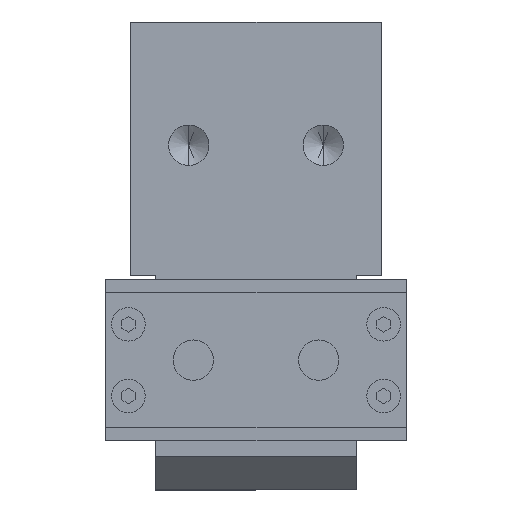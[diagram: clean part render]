
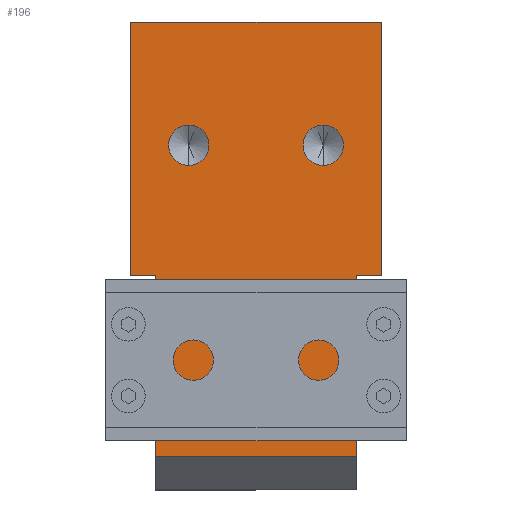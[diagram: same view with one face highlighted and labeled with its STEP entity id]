
A CAD part, left-side view. The second image highlights one B-rep face of the part: STEP entity #196.
In plain terms, the highlighted planar face has unit normal (-1, 0, 0).
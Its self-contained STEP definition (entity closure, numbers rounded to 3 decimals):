
#188 = VERTEX_POINT ( 'NONE', #1426 ) ;
#195 = EDGE_LOOP ( 'NONE', ( #234, #210 ) ) ;
#196 = ADVANCED_FACE ( 'NONE', ( #1486, #1485, #1483 ), #1479, .F. ) ;
#203 = EDGE_CURVE ( 'NONE', #230, #232, #1484, .T. ) ;
#204 = EDGE_CURVE ( 'NONE', #188, #623, #1465, .T. ) ;
#206 = ORIENTED_EDGE ( 'NONE', *, *, #211, .F. ) ;
#207 = EDGE_LOOP ( 'NONE', ( #206, #208 ) ) ;
#208 = ORIENTED_EDGE ( 'NONE', *, *, #335, .F. ) ;
#209 = ORIENTED_EDGE ( 'NONE', *, *, #203, .T. ) ;
#210 = ORIENTED_EDGE ( 'NONE', *, *, #267, .F. ) ;
#211 = EDGE_CURVE ( 'NONE', #277, #301, #1472, .T. ) ;
#212 = EDGE_CURVE ( 'NONE', #230, #604, #1481, .T. ) ;
#214 = ORIENTED_EDGE ( 'NONE', *, *, #204, .T. ) ;
#228 = EDGE_LOOP ( 'NONE', ( #231, #209, #237, #245, #236, #238, #214, #5660 ) ) ;
#229 = EDGE_CURVE ( 'NONE', #265, #260, #1503, .T. ) ;
#230 = VERTEX_POINT ( 'NONE', #1495 ) ;
#231 = ORIENTED_EDGE ( 'NONE', *, *, #212, .F. ) ;
#232 = VERTEX_POINT ( 'NONE', #1513 ) ;
#234 = ORIENTED_EDGE ( 'NONE', *, *, #229, .F. ) ;
#236 = ORIENTED_EDGE ( 'NONE', *, *, #240, .F. ) ;
#237 = ORIENTED_EDGE ( 'NONE', *, *, #250, .T. ) ;
#238 = ORIENTED_EDGE ( 'NONE', *, *, #239, .F. ) ;
#239 = EDGE_CURVE ( 'NONE', #188, #244, #1547, .T. ) ;
#240 = EDGE_CURVE ( 'NONE', #244, #755, #1540, .T. ) ;
#244 = VERTEX_POINT ( 'NONE', #1541 ) ;
#245 = ORIENTED_EDGE ( 'NONE', *, *, #766, .T. ) ;
#250 = EDGE_CURVE ( 'NONE', #232, #739, #1535, .T. ) ;
#260 = VERTEX_POINT ( 'NONE', #1530 ) ;
#265 = VERTEX_POINT ( 'NONE', #1578 ) ;
#267 = EDGE_CURVE ( 'NONE', #260, #265, #1584, .T. ) ;
#277 = VERTEX_POINT ( 'NONE', #1606 ) ;
#301 = VERTEX_POINT ( 'NONE', #1635 ) ;
#335 = EDGE_CURVE ( 'NONE', #301, #277, #1704, .T. ) ;
#604 = VERTEX_POINT ( 'NONE', #2198 ) ;
#623 = VERTEX_POINT ( 'NONE', #2250 ) ;
#627 = EDGE_CURVE ( 'NONE', #623, #604, #2241, .T. ) ;
#739 = VERTEX_POINT ( 'NONE', #2442 ) ;
#755 = VERTEX_POINT ( 'NONE', #2473 ) ;
#766 = EDGE_CURVE ( 'NONE', #739, #755, #2508, .T. ) ;
#1426 = CARTESIAN_POINT ( 'NONE',  ( 0., 0., 56.5 ) ) ;
#1458 = DIRECTION ( 'NONE',  ( 0., 0., 1. ) ) ;
#1459 = DIRECTION ( 'NONE',  ( -1., 0., 0. ) ) ;
#1460 = CARTESIAN_POINT ( 'NONE',  ( 0., -13., 29. ) ) ;
#1461 = AXIS2_PLACEMENT_3D ( 'NONE', #1460, #1459, #1458 ) ;
#1462 = DIRECTION ( 'NONE',  ( 0., 0., -1. ) ) ;
#1463 = VECTOR ( 'NONE', #1462, 1000. ) ;
#1464 = CARTESIAN_POINT ( 'NONE',  ( 0., 0., 56.5 ) ) ;
#1465 = LINE ( 'NONE', #1464, #1463 ) ;
#1468 = VECTOR ( 'NONE', #1473, 1000. ) ;
#1472 = CIRCLE ( 'NONE', #1461, 4.5 ) ;
#1473 = DIRECTION ( 'NONE',  ( 0., -1., 0. ) ) ;
#1474 = CARTESIAN_POINT ( 'NONE',  ( 0., -50.5, -40.5 ) ) ;
#1475 = DIRECTION ( 'NONE',  ( 0., 1., 0. ) ) ;
#1476 = DIRECTION ( 'NONE',  ( 1., 0., 0. ) ) ;
#1477 = CARTESIAN_POINT ( 'NONE',  ( 0., -104.097, 56.5 ) ) ;
#1478 = AXIS2_PLACEMENT_3D ( 'NONE', #1477, #1476, #1475 ) ;
#1479 = PLANE ( 'NONE',  #1478 ) ;
#1481 = LINE ( 'NONE', #1518, #1517 ) ;
#1483 = FACE_OUTER_BOUND ( 'NONE', #228, .T. ) ;
#1484 = LINE ( 'NONE', #1474, #1468 ) ;
#1485 = FACE_BOUND ( 'NONE', #207, .T. ) ;
#1486 = FACE_BOUND ( 'NONE', #195, .T. ) ;
#1489 = CARTESIAN_POINT ( 'NONE',  ( 0., -104.097, 56.5 ) ) ;
#1490 = AXIS2_PLACEMENT_3D ( 'NONE', #1550, #1549, #1548 ) ;
#1495 = CARTESIAN_POINT ( 'NONE',  ( 0., -5.5, -40.5 ) ) ;
#1503 = CIRCLE ( 'NONE', #1490, 4.5 ) ;
#1513 = CARTESIAN_POINT ( 'NONE',  ( 0., -50.5, -40.5 ) ) ;
#1516 = DIRECTION ( 'NONE',  ( 0., 0., 1. ) ) ;
#1517 = VECTOR ( 'NONE', #1516, 1000. ) ;
#1518 = CARTESIAN_POINT ( 'NONE',  ( 0., -5.5, -48. ) ) ;
#1525 = DIRECTION ( 'NONE',  ( 0., 0., 1. ) ) ;
#1527 = VECTOR ( 'NONE', #1525, 1000. ) ;
#1528 = CARTESIAN_POINT ( 'NONE',  ( 0., -50.5, -48. ) ) ;
#1530 = CARTESIAN_POINT ( 'NONE',  ( 0., -43., 24.5 ) ) ;
#1535 = LINE ( 'NONE', #1528, #1527 ) ;
#1537 = DIRECTION ( 'NONE',  ( 0., 0., -1. ) ) ;
#1538 = VECTOR ( 'NONE', #1537, 1000. ) ;
#1539 = CARTESIAN_POINT ( 'NONE',  ( 0., -56., 56.5 ) ) ;
#1540 = LINE ( 'NONE', #1539, #1538 ) ;
#1541 = CARTESIAN_POINT ( 'NONE',  ( 0., -56., 56.5 ) ) ;
#1543 = DIRECTION ( 'NONE',  ( 0., -1., 0. ) ) ;
#1545 = VECTOR ( 'NONE', #1543, 1000. ) ;
#1547 = LINE ( 'NONE', #1489, #1545 ) ;
#1548 = DIRECTION ( 'NONE',  ( 0., 0., 1. ) ) ;
#1549 = DIRECTION ( 'NONE',  ( -1., 0., 0. ) ) ;
#1550 = CARTESIAN_POINT ( 'NONE',  ( 0., -43., 29. ) ) ;
#1564 = DIRECTION ( 'NONE',  ( 0., 0., 1. ) ) ;
#1565 = AXIS2_PLACEMENT_3D ( 'NONE', #1571, #1568, #1564 ) ;
#1568 = DIRECTION ( 'NONE',  ( -1., 0., 0. ) ) ;
#1571 = CARTESIAN_POINT ( 'NONE',  ( 0., -43., 29. ) ) ;
#1578 = CARTESIAN_POINT ( 'NONE',  ( 0., -43., 33.5 ) ) ;
#1584 = CIRCLE ( 'NONE', #1565, 4.5 ) ;
#1606 = CARTESIAN_POINT ( 'NONE',  ( 0., -13., 33.5 ) ) ;
#1635 = CARTESIAN_POINT ( 'NONE',  ( 0., -13., 24.5 ) ) ;
#1692 = DIRECTION ( 'NONE',  ( 0., 0., 1. ) ) ;
#1693 = DIRECTION ( 'NONE',  ( -1., 0., 0. ) ) ;
#1699 = AXIS2_PLACEMENT_3D ( 'NONE', #1710, #1693, #1692 ) ;
#1704 = CIRCLE ( 'NONE', #1699, 4.5 ) ;
#1710 = CARTESIAN_POINT ( 'NONE',  ( 0., -13., 29. ) ) ;
#2198 = CARTESIAN_POINT ( 'NONE',  ( 0., -5.5, 0. ) ) ;
#2236 = DIRECTION ( 'NONE',  ( 0., -1., 0. ) ) ;
#2237 = VECTOR ( 'NONE', #2236, 1000. ) ;
#2238 = CARTESIAN_POINT ( 'NONE',  ( 0., -104.097, 0. ) ) ;
#2241 = LINE ( 'NONE', #2238, #2237 ) ;
#2250 = CARTESIAN_POINT ( 'NONE',  ( 0., 0., 0. ) ) ;
#2442 = CARTESIAN_POINT ( 'NONE',  ( 0., -50.5, 0. ) ) ;
#2473 = CARTESIAN_POINT ( 'NONE',  ( 0., -56., 0. ) ) ;
#2501 = DIRECTION ( 'NONE',  ( 0., -1., 0. ) ) ;
#2502 = VECTOR ( 'NONE', #2501, 1000. ) ;
#2503 = CARTESIAN_POINT ( 'NONE',  ( 0., -104.097, 0. ) ) ;
#2508 = LINE ( 'NONE', #2503, #2502 ) ;
#5660 = ORIENTED_EDGE ( 'NONE', *, *, #627, .T. ) ;
